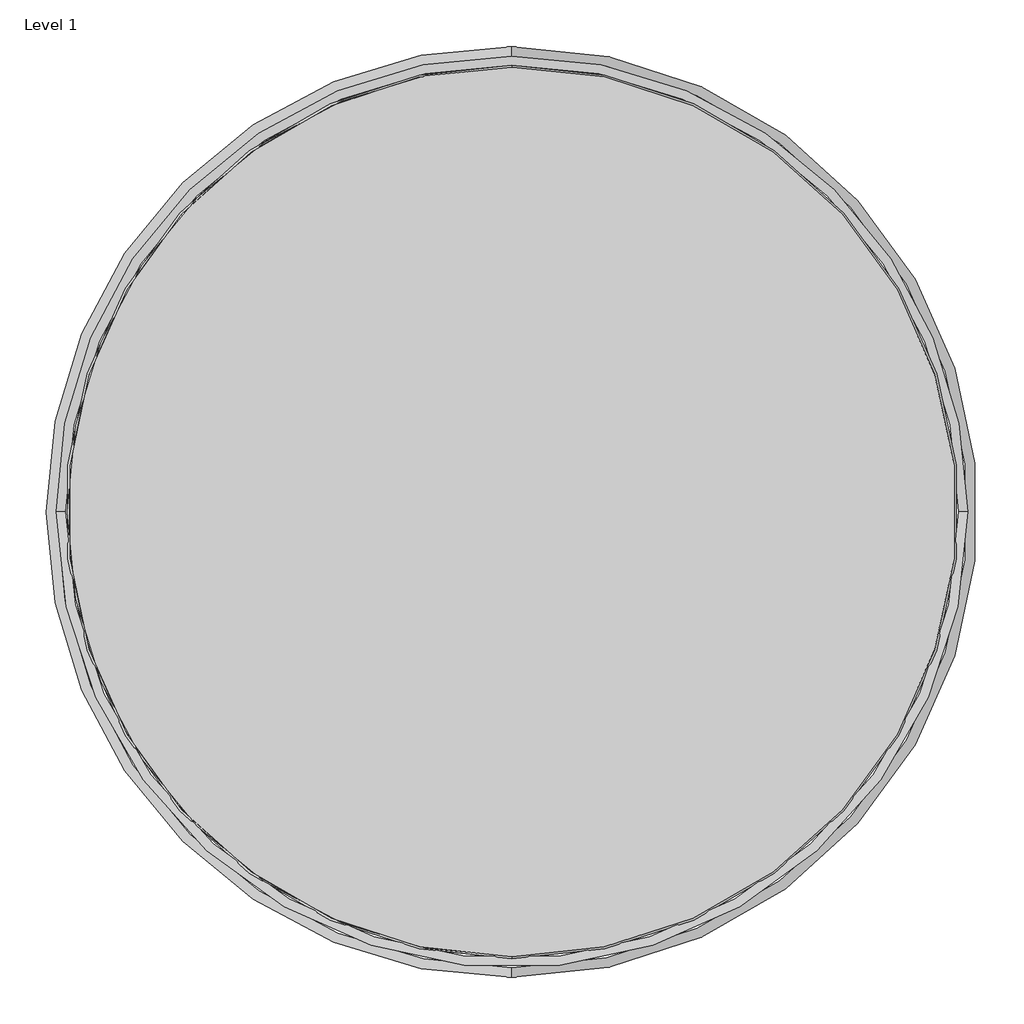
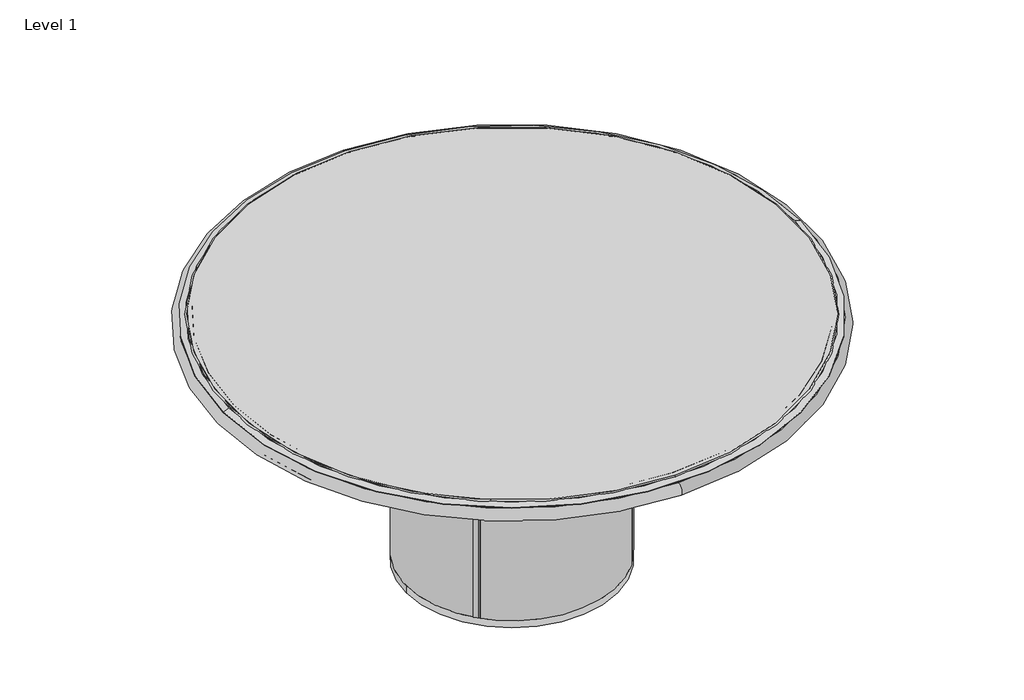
# One storey, incomplete: 10 proxies.
"""IFC4 building model written with IfcOpenShell, lengths in millimetres."""

import ifcopenshell
import ifcopenshell.guid

model = None  # the IFC model being written
_history = None  # IfcOwnerHistory: only IFC2X3 demands one
_inside = {}  # id of a spatial element -> (the spatial element, [elements in it])
_under = {}  # id of a project, library or spatial element -> (it, [spatial elements below it])
_declared = {}  # id of a project -> (the project, [libraries it declares])
_typed = {}  # id of a type object -> (the type object, [elements of that type])
_made_of = {}  # id of a material, layer set ... -> (it, [elements and type objects made of it])


def new_model(schema):
    """Start an empty IFC model of exactly this schema.

    Asked for "IFC4X3", IfcOpenShell would pick the latest addendum, in which some entities
    have other attributes; the version numbers below select the first issue.
    IFC2X3 requires an IfcOwnerHistory on every rooted entity: one is made here for all.
    """
    global model, _history
    if schema == "IFC4X3":
        model = ifcopenshell.file(schema_version=(4, 3, 0, 0))
    else:
        model = ifcopenshell.file(schema=schema)
    _inside.clear()
    _under.clear()
    _declared.clear()
    _typed.clear()
    _made_of.clear()
    _history = None
    if model.schema == "IFC2X3":
        org = make("IfcOrganization", Name="unknown")
        user = make(
            "IfcPersonAndOrganization",
            ThePerson=make("IfcPerson", FamilyName="unknown"),
            TheOrganization=org,
        )
        app = make(
            "IfcApplication",
            ApplicationDeveloper=org,
            Version="unknown",
            ApplicationFullName="unknown",
            ApplicationIdentifier="unknown",
        )
        _history = make(
            "IfcOwnerHistory",
            OwningUser=user,
            OwningApplication=app,
            ChangeAction="ADDED",
            CreationDate=0,
        )
    return model


def make(cls, **values):
    """One entity of the class cls with the attributes given. An attribute that is None is left unset."""
    return model.create_entity(
        cls, **{name: value for name, value in values.items() if value is not None}
    )


def rooted(cls, **values):
    """An entity with a GlobalId (a new one), such as an element, a storey or a relation."""
    return make(cls, GlobalId=ifcopenshell.guid.new(), OwnerHistory=_history, **values)


def si_unit(unit_type, name, prefix=None):
    """IfcSIUnit, for example si_unit("LENGTHUNIT", "METRE", prefix="MILLI")."""
    return make("IfcSIUnit", UnitType=unit_type, Prefix=prefix, Name=name)


def assignment(units):
    """IfcUnitAssignment: the units of a project."""
    return None if units is None else make("IfcUnitAssignment", Units=units)


def point(xyz):
    """IfcCartesianPoint."""
    return None if xyz is None else make("IfcCartesianPoint", Coordinates=xyz)


def direction(xyz):
    """IfcDirection."""
    return None if xyz is None else make("IfcDirection", DirectionRatios=xyz)


def frame(location, z_axis=None, x_axis=None):
    """IfcAxis2Placement3D, a coordinate frame: its origin and axes. An axis left out is left unset."""
    return make(
        "IfcAxis2Placement3D",
        Location=point(location),
        Axis=direction(z_axis),
        RefDirection=direction(x_axis),
    )


def frame_2d(location, x_axis=None):
    """IfcAxis2Placement2D, a coordinate frame in the plane: its origin and x axis."""
    return make(
        "IfcAxis2Placement2D", Location=point(location), RefDirection=direction(x_axis)
    )


def origin():
    """The frame at (0, 0, 0) with its axes left unset."""
    return frame((0.0, 0.0, 0.0))


def origin_2d():
    """The frame at (0, 0) in the plane with its x axis left unset."""
    return frame_2d((0.0, 0.0))


def place(relative_to, where):
    """IfcLocalPlacement: puts the frame where relative to a parent placement (None: the world)."""
    return make(
        "IfcLocalPlacement", PlacementRelTo=relative_to, RelativePlacement=where
    )


def context(
    kind, dimensions, precision=None, world=None, true_north=None, identifier=None
):
    """IfcGeometricRepresentationContext, for example the 3D "Model" context."""
    return make(
        "IfcGeometricRepresentationContext",
        ContextIdentifier=identifier,
        ContextType=kind,
        CoordinateSpaceDimension=dimensions,
        Precision=precision,
        WorldCoordinateSystem=world,
        TrueNorth=true_north,
    )


def project(units=None, contexts=None):
    """IfcProject with its units and contexts."""
    return rooted(
        "IfcProject",
        Name="project",
        RepresentationContexts=contexts,
        UnitsInContext=assignment(units),
    )


def spatial(cls, under=None, at=None, **own):
    """A site, building, storey or space (cls), placed at a placement, below another one or the project."""
    s = rooted(cls, ObjectPlacement=at, **own)
    if under is not None:
        _under.setdefault(under.id(), (under, []))[1].append(s)
    return s


def polyline(points):
    """IfcPolyline through the points."""
    return make("IfcPolyline", Points=[point(p) for p in points])


def circle_curve(where, radius):
    """IfcCircle in the frame where."""
    return make("IfcCircle", Position=where, Radius=radius)


def ellipse_curve(where, semi_axis1, semi_axis2):
    """IfcEllipse in the frame where."""
    return make(
        "IfcEllipse", Position=where, SemiAxis1=semi_axis1, SemiAxis2=semi_axis2
    )


def trimmed(basis, trim1, trim2, sense, master):
    """IfcTrimmedCurve: the piece of a basis curve between two trims."""
    return make(
        "IfcTrimmedCurve",
        BasisCurve=basis,
        Trim1=trim1,
        Trim2=trim2,
        SenseAgreement=sense,
        MasterRepresentation=master,
    )


def segment(curve, same_sense, transition):
    """IfcCompositeCurveSegment."""
    return make(
        "IfcCompositeCurveSegment",
        Transition=transition,
        SameSense=same_sense,
        ParentCurve=curve,
    )


def composite_curve(segments, self_intersect=None):
    """IfcCompositeCurve: segments joined end to end."""
    return make("IfcCompositeCurve", Segments=segments, SelfIntersect=self_intersect)


def outline(outer, holes=None, kind="AREA"):
    """IfcArbitraryClosedProfileDef: a profile drawn as a closed curve; with holes, ...WithVoids."""
    if holes is None:
        return make("IfcArbitraryClosedProfileDef", ProfileType=kind, OuterCurve=outer)
    return make(
        "IfcArbitraryProfileDefWithVoids",
        ProfileType=kind,
        OuterCurve=outer,
        InnerCurves=holes,
    )


def extrude(swept, where, along, depth):
    """IfcExtrudedAreaSolid: the profile swept, set in the frame where, extruded along a direction by depth."""
    return make(
        "IfcExtrudedAreaSolid",
        SweptArea=swept,
        Position=where,
        ExtrudedDirection=direction(along),
        Depth=depth,
    )


def shape(context_of_items, identifier, shape_type, items):
    """IfcShapeRepresentation: the items that make up one representation, for example the "Body"."""
    return make(
        "IfcShapeRepresentation",
        ContextOfItems=context_of_items,
        RepresentationIdentifier=identifier,
        RepresentationType=shape_type,
        Items=items,
    )


def source(mapping_origin, context_of_items, identifier, shape_type, items):
    """IfcRepresentationMap: a shape defined once, which mapped items show again and again."""
    return make(
        "IfcRepresentationMap",
        MappingOrigin=mapping_origin,
        MappedRepresentation=shape(context_of_items, identifier, shape_type, items),
    )


def transform(
    local_origin,
    x_axis=None,
    y_axis=None,
    z_axis=None,
    scale=None,
    scale2=None,
    scale3=None,
    uniform=True,
):
    """IfcCartesianTransformationOperator3D, or its non-uniform kind. x_axis, y_axis, z_axis: its Axis1, 2, 3."""
    if uniform:
        return make(
            "IfcCartesianTransformationOperator3D",
            Axis1=direction(x_axis),
            Axis2=direction(y_axis),
            LocalOrigin=point(local_origin),
            Scale=scale,
            Axis3=direction(z_axis),
        )
    return make(
        "IfcCartesianTransformationOperator3DnonUniform",
        Axis1=direction(x_axis),
        Axis2=direction(y_axis),
        LocalOrigin=point(local_origin),
        Scale=scale,
        Axis3=direction(z_axis),
        Scale2=scale2,
        Scale3=scale3,
    )


def mapped(mapping_source, mapping_target):
    """IfcMappedItem: shows the shape of a source again, moved by a transform."""
    return make(
        "IfcMappedItem", MappingSource=mapping_source, MappingTarget=mapping_target
    )


def made_of(thing, what):
    """Note that an element or type object is made of a material, layer set ...; save() writes the relation."""
    if what is not None:
        _made_of.setdefault(what.id(), (what, []))[1].append(thing)
    return thing


def element(
    cls,
    number,
    at=None,
    inside=None,
    cuts=None,
    type_object=None,
    material=None,
    context=None,
    identifier="Body",
    shape_type=None,
    held_by="IfcProductDefinitionShape",
    body=None,
    shapes=None,
    **own,
):
    """One element of the class cls, such as IfcWall. Its Tag is "e" and its number.

    at: its placement. inside: the storey or other place that contains it. cuts: it is an
    opening in that element (IfcRelVoidsElement). A single representation is given by context,
    identifier, shape_type and body (its items); several are given by shapes. held_by: the class
    of the entity that holds the representations. save() writes the other relations.
    """
    e = rooted(cls, Tag="e%d" % number, ObjectPlacement=at, **own)
    if body is not None:
        shapes = [shape(context, identifier, shape_type, body)]
    if shapes is not None:
        e.Representation = make(held_by, Representations=shapes)
    if inside is not None:
        _inside.setdefault(inside.id(), (inside, []))[1].append(e)
    if cuts is not None:
        rooted(
            "IfcRelVoidsElement", RelatingBuildingElement=cuts, RelatedOpeningElement=e
        )
    if type_object is not None:
        _typed.setdefault(type_object.id(), (type_object, []))[1].append(e)
    return made_of(e, material)


def aggregate(whole, parts):
    """IfcRelAggregates: a whole, such as a stair, and the parts it consists of."""
    return rooted("IfcRelAggregates", RelatingObject=whole, RelatedObjects=parts)


def save(model, path):
    """Write the relations noted so far, then the file.

    IfcRelAggregates (storeys below a building ...), IfcRelContainedInSpatialStructure (elements
    in a storey), IfcRelDefinesByType, IfcRelAssociatesMaterial and IfcRelDeclares: one each for
    every whole, place, type object, material and project.
    """
    for whole, parts in _under.values():
        aggregate(whole, parts)
    for where, things in _inside.values():
        rooted(
            "IfcRelContainedInSpatialStructure",
            RelatedElements=things,
            RelatingStructure=where,
        )
    for kind, things in _typed.values():
        rooted("IfcRelDefinesByType", RelatedObjects=things, RelatingType=kind)
    for what, things in _made_of.values():
        rooted("IfcRelAssociatesMaterial", RelatedObjects=things, RelatingMaterial=what)
    for by, libraries in _declared.values():
        rooted("IfcRelDeclares", RelatingContext=by, RelatedDefinitions=libraries)
    model.write(path)


def plane_surface(at):
    """IfcPlane: the flat surface through the origin of the frame at, square to its z axis."""
    return make("IfcPlane", Position=at)


def cylinder_surface(at, radius):
    """IfcCylindricalSurface: all points at the distance radius from the z axis of the frame at."""
    return make("IfcCylindricalSurface", Position=at, Radius=radius)


def revolved_surface(curve, axis_point, axis_direction):
    """IfcSurfaceOfRevolution: the curve turned about the line through axis_point along axis_direction."""
    return make(
        "IfcSurfaceOfRevolution",
        SweptCurve=make("IfcArbitraryOpenProfileDef", ProfileType="CURVE", Curve=curve),
        AxisPosition=make("IfcAxis1Placement", Location=point(axis_point), Axis=direction(axis_direction)),
    )


def advanced_brep(points, edges, surfaces, faces):
    """IfcAdvancedBrep: a solid bounded by faces that lie on surfaces and meet in shared edges.

    An edge is (start, end): straight between two places in points (the first is 0);
    or (start, end, curve); or (start, end, curve, False) where it runs against its curve.
    A face is (place in surfaces, loops), or (place, loops, False) where it looks against
    its surface's normal. A loop lists edges by number (the first is 1), with a minus sign
    where the edge is run from its end to its start. The first loop is the outer one.
    """
    corners = [point(p) for p in points]
    vertices = [make("IfcVertexPoint", VertexGeometry=c) for c in corners]
    made = []
    for start, end, *more in edges:
        made.append(
            make(
                "IfcEdgeCurve",
                EdgeStart=vertices[start],
                EdgeEnd=vertices[end],
                EdgeGeometry=more[0] if more else make("IfcPolyline", Points=[corners[start], corners[end]]),
                SameSense=more[1] if len(more) > 1 else True,
            )
        )
    hull = []
    for where, loops, *sense in faces:
        bounds = []
        for j, loop in enumerate(loops):
            ring = [make("IfcOrientedEdge", EdgeElement=made[abs(k) - 1], Orientation=k > 0) for k in loop]
            bounds.append(
                make(
                    "IfcFaceOuterBound" if j == 0 else "IfcFaceBound",
                    Bound=make("IfcEdgeLoop", EdgeList=ring),
                    Orientation=True,
                )
            )
        hull.append(make("IfcAdvancedFace", Bounds=bounds, FaceSurface=surfaces[where], SameSense=sense[0] if sense else True))
    return make("IfcAdvancedBrep", Outer=make("IfcClosedShell", CfsFaces=hull))


def generic_models_3dfdcb52(model_context):
    return source(origin(), model_context, "Body", "AdvancedBrep", [
        advanced_brep(
        [(265.1125, -615.95, 0.0), (265.1125, -596.9, 0.0), (-265.1125, -596.9, 0.0), (-265.1125, -615.95, 0.0), (208.5642819, -615.95, 163.6630013)],
        [
            (0, 1),
            (1, 2, circle_curve(frame((0.0, -596.9, 0.0), z_axis=(0.0, -1.0, 0.0), x_axis=(1.0, 0.0, 0.0)), 265.1125)),
            (2, 3),
            (3, 4, circle_curve(frame((0.0, -615.95, 0.0), z_axis=(0.0, 1.0, 0.0), x_axis=(1.0, 0.0, 0.0)), 265.1125)),
            (4, 0, circle_curve(frame((0.0, -615.95, 0.0), z_axis=(0.0, 1.0, 0.0), x_axis=(1.0, 0.0, 0.0)), 265.1125)),
            (0, 3, circle_curve(frame((0.0, -615.95, 0.0), z_axis=(0.0, 1.0, 0.0), x_axis=(1.0, 0.0, 0.0)), 265.1125)),
            (2, 1, circle_curve(frame((0.0, -596.9, 0.0), z_axis=(0.0, -1.0, 0.0), x_axis=(1.0, 0.0, 0.0)), 265.1125)),
        ],
        [
            cylinder_surface(frame((0.0, -615.95, 0.0), z_axis=(0.0, 1.0, 0.0), x_axis=(1.0, 0.0, 0.0)), 265.1125),
            plane_surface(frame((0.0, -615.95, 0.0), z_axis=(0.0, -1.0, 0.0), x_axis=(0.0, 0.0, -1.0))),
            plane_surface(frame((0.0, -596.9, 0.0), z_axis=(0.0, 1.0, 0.0), x_axis=(0.0, 0.0, -1.0))),
        ],
        [
            (0, [[1, 2, 3, 4, 5]]),
            (0, [[-1, 6, -3, 7]]),
            (1, [[-4, -6, -5]]),
            (2, [[-7, -2]]),
        ],
    ),
    ])


def generic_models_aae6d9b0(model_context):
    return source(origin(), model_context, "Body", "SweptSolid", [
        extrude(outline(composite_curve([segment(trimmed(circle_curve(origin_2d(), 349.25), [point((0.0, 349.25))], [point((0.0, -349.25))], False, "CARTESIAN"), True, "CONTINUOUS"), segment(trimmed(circle_curve(origin_2d(), 349.25), [point((0.0, -349.25))], [point((0.0, 349.25))], False, "CARTESIAN"), True, "CONTINUOUS")], self_intersect=False)), frame((0.0, -19.05, 0.0), z_axis=(0.0, 1.0, 0.0), x_axis=(0.0, 0.0, 1.0)), (0.0, 0.0, 1.0), 19.05),
    ])


def generic_models_4e563e0e(model_context):
    return source(origin(), model_context, "Body", "SweptSolid", [
        extrude(outline(composite_curve([segment(polyline([(-187.4628465, -187.4628465), (187.4628465, -187.4628465)]), True, "CONTINUOUS"), segment(trimmed(circle_curve(origin_2d(), 265.1125), [point((187.4628465, -187.4628465))], [point((166.2440431, -206.5128465))], False, "CARTESIAN"), True, "CONTINUOUS"), segment(polyline([(166.2440431, -206.5128465), (-166.2440431, -206.5128465)]), True, "CONTINUOUS"), segment(trimmed(circle_curve(origin_2d(), 265.1125), [point((-166.2440431, -206.5128465))], [point((-187.4628465, -187.4628465))], False, "CARTESIAN"), True, "CONTINUOUS")], self_intersect=False)), frame((0.0, -596.9, 0.0), z_axis=(0.0, 1.0, 0.0), x_axis=(0.0, 0.0, 1.0)), (0.0, 0.0, 1.0), 558.8),
    ])


def generic_models_b4677119(model_context):
    return source(origin(), model_context, "Body", "SweptSolid", [
        extrude(outline(composite_curve([segment(polyline([(-22.4506403, 22.4506403), (169.3151544, 214.216435)]), True, "CONTINUOUS"), segment(trimmed(circle_curve(origin_2d(), 273.05), [point((169.3151544, 214.216435))], [point((193.0755066, -193.0755066))], False, "CARTESIAN"), True, "CONTINUOUS"), segment(polyline([(193.0755066, -193.0755066), (-22.4506403, 22.4506403)]), True, "CONTINUOUS")], self_intersect=False)), frame((0.0, -615.95, 0.0), z_axis=(0.0, 1.0, 0.0), x_axis=(0.0, 0.0, 1.0)), (0.0, 0.0, 1.0), 577.85),
    ])


def generic_models_320544d4(model_context):
    return source(origin(), model_context, "Body", "AdvancedBrep", [
        advanced_brep(
        [(0.0, 22.1682311, 746.125), (0.0, -9.5412197, 744.9910714), (0.0, -9.5412197, -744.9910714), (0.0, 22.1682311, -746.125), (746.125, 22.1682311, 0.0), (0.0, -12.7, 739.0382387), (-744.9910714, -9.5412197, 0.0), (0.0, -12.7, -739.0382387), (-739.0382387, -12.7, 0.0), (-731.2531721, 29.1686338, 0.0), (-746.125, 23.7557311, 0.0), (746.125, 23.7557311, 0.0), (731.2531721, 29.1686338, 0.0), (0.0, 29.1686338, 731.2531721), (0.0, 31.75, 728.0528814), (-728.0528814, 31.75, 0.0), (0.0, 31.75, -728.0528814), (0.0, 29.1686338, -731.2531721), (-746.125, 22.1682311, 0.0)],
        [
            (0, 1, circle_curve(frame((0.0, 6.2932311, 746.125), z_axis=(1.0, 0.0, 0.0), x_axis=(0.0, 0.0, 1.0)), 15.875)),
            (1, 2, circle_curve(frame((0.0, -9.5412197, 0.0), z_axis=(0.0, 1.0, 0.0), x_axis=(0.0, 0.0, 1.0)), 744.9910714)),
            (2, 3, circle_curve(frame((0.0, 6.2932311, -746.125), z_axis=(1.0, 0.0, 0.0), x_axis=(0.0, 0.0, -1.0)), 15.875)),
            (3, 4, circle_curve(frame((0.0, 22.1682311, 0.0), z_axis=(0.0, -1.0, 0.0), x_axis=(0.0, 0.0, 1.0)), 746.125)),
            (4, 0, circle_curve(frame((0.0, 22.1682311, 0.0), z_axis=(0.0, -1.0, 0.0), x_axis=(0.0, 0.0, 1.0)), 746.125)),
            (5, 1, circle_curve(frame((0.0, -15.875, 744.5375), z_axis=(1.0, 0.0, 0.0), x_axis=(0.0, 0.0, 1.0)), 6.35)),
            (1, 6, circle_curve(frame((0.0, -9.5412197, 0.0), z_axis=(0.0, -1.0, 0.0), x_axis=(0.0, 0.0, -1.0)), 744.9910714)),
            (6, 2, circle_curve(frame((0.0, -9.5412197, 0.0), z_axis=(0.0, -1.0, 0.0), x_axis=(0.0, 0.0, -1.0)), 744.9910714)),
            (2, 7, circle_curve(frame((0.0, -15.875, -744.5375), z_axis=(1.0, 0.0, 0.0), x_axis=(0.0, 0.0, -1.0)), 6.35)),
            (7, 8, circle_curve(frame((0.0, -12.7, 0.0), z_axis=(0.0, 1.0, 0.0), x_axis=(0.0, 0.0, -1.0)), 739.0382387)),
            (8, 5, circle_curve(frame((0.0, -12.7, 0.0), z_axis=(0.0, 1.0, 0.0), x_axis=(0.0, 0.0, -1.0)), 739.0382387)),
            (9, 10),
            (10, 11, circle_curve(frame((0.0, 23.7557311, 0.0), z_axis=(0.0, 1.0, 0.0), x_axis=(-1.0, 0.0, 0.0)), 746.125)),
            (11, 12),
            (12, 13, circle_curve(frame((0.0, 29.1686338, 0.0), z_axis=(0.0, -1.0, 0.0), x_axis=(-1.0, 0.0, 0.0)), 731.2531721)),
            (13, 9, circle_curve(frame((0.0, 29.1686338, 0.0), z_axis=(0.0, -1.0, 0.0), x_axis=(-1.0, 0.0, 0.0)), 731.2531721)),
            (13, 14, circle_curve(frame((0.0, 35.1356819, 733.425), z_axis=(1.0, 0.0, 0.0), x_axis=(0.0, 0.0, 1.0)), 6.35)),
            (14, 15, circle_curve(frame((0.0, 31.75, 0.0), z_axis=(0.0, -1.0, 0.0), x_axis=(0.0, 0.0, -1.0)), 728.0528814)),
            (15, 16, circle_curve(frame((0.0, 31.75, 0.0), z_axis=(0.0, -1.0, 0.0), x_axis=(0.0, 0.0, -1.0)), 728.0528814)),
            (16, 17, circle_curve(frame((0.0, 35.1356819, -733.425), z_axis=(1.0, 0.0, 0.0), x_axis=(0.0, 0.0, -1.0)), 6.35)),
            (17, 9, circle_curve(frame((0.0, 29.1686338, 0.0), z_axis=(0.0, 1.0, 0.0), x_axis=(0.0, 0.0, -1.0)), 731.2531721)),
            (10, 18),
            (18, 0, circle_curve(frame((0.0, 22.1682311, 0.0), z_axis=(0.0, 1.0, 0.0), x_axis=(-1.0, 0.0, 0.0)), 746.125)),
            (4, 11),
            (14, 16, circle_curve(frame((0.0, 31.75, 0.0), z_axis=(0.0, 1.0, 0.0), x_axis=(0.0, 0.0, 1.0)), 728.0528814)),
            (7, 5, circle_curve(frame((0.0, -12.7, 0.0), z_axis=(0.0, -1.0, 0.0), x_axis=(0.0, 0.0, 1.0)), 739.0382387)),
            (10, 11, circle_curve(frame((0.0, 23.7557311, 0.0), z_axis=(0.0, -1.0, 0.0), x_axis=(-1.0, 0.0, 0.0)), 746.125)),
            (3, 18, circle_curve(frame((0.0, 22.1682311, 0.0), z_axis=(0.0, 1.0, 0.0), x_axis=(-1.0, 0.0, 0.0)), 746.125)),
            (12, 17, circle_curve(frame((0.0, 29.1686338, 0.0), z_axis=(0.0, 1.0, 0.0), x_axis=(0.0, 0.0, 1.0)), 731.2531721)),
        ],
        [
            revolved_surface(trimmed(ellipse_curve(frame((0.0, 6.2932311, 746.125), z_axis=(-1.0, 0.0, 0.0), x_axis=(0.0, 0.0, 1.0)), 15.875, 15.875), [point((0.0, -9.5412197, 744.9910714))], [point((0.0, 22.1682311, 746.125))], True, "CARTESIAN"), (0.0, 6.2932311, 0.0), (0.0, 1.0, 0.0)),
            revolved_surface(trimmed(ellipse_curve(frame((0.0, -15.875, -744.5375), z_axis=(-1.0, 0.0, 0.0), x_axis=(0.0, 0.0, -1.0)), 6.35, 6.35), [point((0.0, -12.7, -739.0382387))], [point((0.0, -9.5412197, -744.9910714))], True, "CARTESIAN"), (0.0, -15.875, 0.0), (0.0, 1.0, 0.0)),
            revolved_surface(polyline([(-731.2531720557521, 29.16863380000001, 0.0), (-746.125, 23.75573109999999, 0.0)]), (0.0, 295.3230221, 0.0), (0.0, -1.0, 0.0)),
            revolved_surface(trimmed(ellipse_curve(frame((0.0, 35.1356819, -733.425), z_axis=(-1.0, 0.0, 0.0), x_axis=(0.0, 0.0, -1.0)), 6.35, 6.35), [point((0.0, 29.1686338, -731.2531721))], [point((0.0, 31.75, -728.0528814))], True, "CARTESIAN"), (0.0, 35.1356819, 0.0), (0.0, 1.0, 0.0)),
            cylinder_surface(frame((0.0, 22.9619811, 0.0), z_axis=(0.0, 1.0, 0.0), x_axis=(-1.0, 0.0, 0.0)), 746.125),
            plane_surface(frame((0.0, 31.75, 0.0), z_axis=(0.0, 1.0, 0.0), x_axis=(0.0, 0.0, 1.0))),
            plane_surface(frame((0.0, -12.7, 0.0), z_axis=(0.0, -1.0, 0.0), x_axis=(0.0, 0.0, 1.0))),
            revolved_surface(trimmed(ellipse_curve(frame((0.0, 35.1356819, 733.425), z_axis=(1.0, 0.0, 0.0), x_axis=(0.0, 0.0, 1.0)), 6.35, 6.35), [point((0.0, 29.1686338, 731.2531721))], [point((0.0, 31.75, 728.0528814))], True, "CARTESIAN"), (0.0, 35.1356819, 0.0), (0.0, 1.0, 0.0)),
            revolved_surface(trimmed(ellipse_curve(frame((0.0, -15.875, 744.5375), z_axis=(1.0, 0.0, 0.0), x_axis=(0.0, 0.0, 1.0)), 6.35, 6.35), [point((0.0, -12.7, 739.0382387))], [point((0.0, -9.5412197, 744.9910714))], True, "CARTESIAN"), (0.0, -15.875, 0.0), (0.0, 1.0, 0.0)),
            revolved_surface(trimmed(ellipse_curve(frame((0.0, 6.2932311, -746.125), z_axis=(1.0, 0.0, 0.0), x_axis=(0.0, 0.0, -1.0)), 15.875, 15.875), [point((0.0, -9.5412197, -744.9910714))], [point((0.0, 22.1682311, -746.125))], True, "CARTESIAN"), (0.0, 6.2932311, 0.0), (0.0, 1.0, 0.0)),
        ],
        [
            (0, [[1, 2, 3, 4, 5]]),
            (1, [[6, 7, 8, 9, 10, 11]]),
            (2, [[12, 13, 14, 15, 16]]),
            (3, [[17, 18, 19, 20, 21, -16]]),
            (4, [[22, 23, -5, 24, -13]]),
            (5, [[-18, 25, -19]]),
            (6, [[-10, 26, -11]]),
            (4, [[-22, 27, -24, -4, 28]]),
            (7, [[-17, -15, 29, -20, -25]]),
            (2, [[-12, -21, -29, -14, -27]]),
            (8, [[-6, -26, -9, -2]]),
            (9, [[-1, -23, -28, -3, -8, -7]]),
        ],
    ),
    ])


def generic_models_939ff904(model_context):
    return source(origin(), model_context, "Body", "SweptSolid", [
        extrude(outline(composite_curve([segment(trimmed(circle_curve(origin_2d(), 273.05), [point((0.0, 273.05))], [point((0.0, -273.05))], False, "CARTESIAN"), True, "CONTINUOUS"), segment(trimmed(circle_curve(origin_2d(), 273.05), [point((0.0, -273.05))], [point((0.0, 273.05))], False, "CARTESIAN"), True, "CONTINUOUS")], self_intersect=False)), frame((0.0, -635.0, 0.0), z_axis=(0.0, 1.0, 0.0), x_axis=(0.0, 0.0, 1.0)), (0.0, 0.0, 1.0), 19.05),
    ])


def generic_models_e8c6ea60(model_context):
    return source(origin(), model_context, "Body", "SweptSolid", [
        extrude(outline(composite_curve([segment(trimmed(circle_curve(origin_2d(), 265.1125), [point((0.0, 265.1125))], [point((0.0, -265.1125))], False, "CARTESIAN"), True, "CONTINUOUS"), segment(trimmed(circle_curve(origin_2d(), 265.1125), [point((0.0, -265.1125))], [point((0.0, 265.1125))], False, "CARTESIAN"), True, "CONTINUOUS")], self_intersect=False)), frame((0.0, -38.1, 0.0), z_axis=(0.0, 1.0, 0.0), x_axis=(0.0, 0.0, 1.0)), (0.0, 0.0, 1.0), 19.05),
    ])


def generic_models_51752abd(model_context):
    return source(origin(), model_context, "Body", "SweptSolid", [
        extrude(outline(composite_curve([segment(polyline([(169.3151544, 214.216435), (-22.4506403, 22.4506403), (193.0755066, -193.0755066)]), True, "CONTINUOUS"), segment(trimmed(circle_curve(origin_2d(), 273.05), [point((193.0755066, -193.0755066))], [point((169.3151544, 214.216435))], False, "CARTESIAN"), True, "CONTINUOUS")], self_intersect=False)), frame((0.0, -615.95, 0.0), z_axis=(0.0, 1.0, 0.0), x_axis=(0.0, 0.0, 1.0)), (0.0, 0.0, 1.0), 596.9),
    ])


def generic_models_453faee4(model_context):
    return source(origin(), model_context, "Body", "SweptSolid", [
        extrude(outline(composite_curve([segment(trimmed(circle_curve(origin_2d(), 717.55), [point((0.0, 717.55))], [point((0.0, -717.55))], False, "CARTESIAN"), True, "CONTINUOUS"), segment(trimmed(circle_curve(origin_2d(), 717.55), [point((0.0, -717.55))], [point((0.0, 717.55))], False, "CARTESIAN"), True, "CONTINUOUS")], self_intersect=False)), frame((0.0, 0.0, 0.0), z_axis=(0.0, 1.0, 0.0), x_axis=(0.0, 0.0, 1.0)), (0.0, 0.0, 1.0), 31.75),
    ])


def generic_models_85b807a3(model_context):
    return source(origin(), model_context, "Body", "SweptSolid", [
        extrude(outline(composite_curve([segment(trimmed(circle_curve(origin_2d(), 717.55), [point((0.0, 717.55))], [point((0.0, -717.55))], False, "CARTESIAN"), True, "CONTINUOUS"), segment(trimmed(circle_curve(origin_2d(), 717.55), [point((0.0, -717.55))], [point((0.0, 717.55))], False, "CARTESIAN"), True, "CONTINUOUS")], self_intersect=False)), frame((0.0, -12.7, 0.0), z_axis=(0.0, 1.0, 0.0), x_axis=(0.0, 0.0, 1.0)), (0.0, 0.0, 1.0), 12.7),
    ])


model = new_model("IFC4")

# Units and contexts
model_context = context("Model", 3, world=origin())
ifc_project = project(units=[si_unit("LENGTHUNIT", "METRE", prefix="MILLI")], contexts=[model_context])

# Site, building, storey
site = spatial("IfcSite", under=ifc_project)
building = spatial("IfcBuilding", under=site)
storey = spatial("IfcBuildingStorey", under=building, Name="Level 1", Elevation=0.0)

# Proxies
placement = place(None, origin())
generic_models_shape = generic_models_3dfdcb52(model_context)
element("IfcBuildingElementProxy", 1, Name="CAMBRIDGE^TABLE 1_60 ROUND-BASE BOTTOM", ObjectType="CAMBRIDGE^TABLE 1_60 ROUND-BASE BOTTOM", at=placement, inside=storey, context=model_context, shape_type="MappedRepresentation", body=[
    mapped(generic_models_shape, transform((0.0, 0.0, 0.0), x_axis=(1.0, 0.0, 0.0), y_axis=(0.0, 0.0, 1.0), z_axis=(0.0, -1.0, 0.0))),
])
generic_models_2_shape = generic_models_aae6d9b0(model_context)
element("IfcBuildingElementProxy", 2, Name="CAMBRIDGE^TABLE 1_60 ROUND-SUB TOP", ObjectType="CAMBRIDGE^TABLE 1_60 ROUND-SUB TOP", at=placement, inside=storey, context=model_context, shape_type="MappedRepresentation", body=[
    mapped(generic_models_2_shape, transform((0.0, 0.0, 0.0), x_axis=(1.0, 0.0, 0.0), y_axis=(0.0, 0.0, 1.0), z_axis=(0.0, -1.0, 0.0))),
])
generic_models_3_shape = generic_models_4e563e0e(model_context)
element("IfcBuildingElementProxy", 3, Name="CAMBRIDGE^TABLE 1_60 ROUND-SIDE PARTITION", ObjectType="CAMBRIDGE^TABLE 1_60 ROUND-SIDE PARTITION", at=placement, inside=storey, context=model_context, shape_type="MappedRepresentation", body=[
    mapped(generic_models_3_shape, transform((0.0, 0.0, 0.0), x_axis=(-1.0, 0.0, 0.0), y_axis=(0.0, 0.0, 1.0), z_axis=(0.0, 1.0, 0.0))),
])
generic_models_4_shape = generic_models_b4677119(model_context)
element("IfcBuildingElementProxy", 4, Name="CAMBRIDGE^TABLE 1_60 ROUND-BASE DOOR", ObjectType="CAMBRIDGE^TABLE 1_60 ROUND-BASE DOOR", at=placement, inside=storey, context=model_context, shape_type="MappedRepresentation", body=[
    mapped(generic_models_4_shape, transform((0.0, 0.0, 0.0), x_axis=(0.9981990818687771, -0.059988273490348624, 0.0), y_axis=(0.0, 0.0, 0.9999999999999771), z_axis=(-0.059988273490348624, -0.9981990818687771, 0.0))),
])
generic_models_5_shape = generic_models_320544d4(model_context)
element("IfcBuildingElementProxy", 5, Name="CAMBRIDGE^TABLE 1_60 ROUND-TOP SOLID", ObjectType="CAMBRIDGE^TABLE 1_60 ROUND-TOP SOLID", at=placement, inside=storey, context=model_context, shape_type="MappedRepresentation", body=[
    mapped(generic_models_5_shape, transform((0.0, 0.0, 0.0), x_axis=(1.0, 0.0, 0.0), y_axis=(0.0, 0.0, 1.0), z_axis=(0.0, -1.0, 0.0))),
])
generic_models_6_shape = generic_models_939ff904(model_context)
element("IfcBuildingElementProxy", 6, Name="CAMBRIDGE^TABLE 1_60 ROUND-PLINTH TOP", ObjectType="CAMBRIDGE^TABLE 1_60 ROUND-PLINTH TOP", at=placement, inside=storey, context=model_context, shape_type="MappedRepresentation", body=[
    mapped(generic_models_6_shape, transform((0.0, 0.0, 0.0), x_axis=(1.0, 0.0, 0.0), y_axis=(0.0, 0.0, 1.0), z_axis=(0.0, -1.0, 0.0))),
])
generic_models_7_shape = generic_models_e8c6ea60(model_context)
element("IfcBuildingElementProxy", 7, Name="CAMBRIDGE^TABLE 1_60 ROUND-BASE TOP", ObjectType="CAMBRIDGE^TABLE 1_60 ROUND-BASE TOP", at=placement, inside=storey, context=model_context, shape_type="MappedRepresentation", body=[
    mapped(generic_models_7_shape, transform((0.0, 0.0, 0.0), x_axis=(1.0, 0.0, 0.0), y_axis=(0.0, 0.0, 1.0), z_axis=(0.0, -1.0, 0.0))),
])
generic_models_8_shape = generic_models_51752abd(model_context)
element("IfcBuildingElementProxy", 8, Name="CAMBRIDGE^TABLE 1_60 ROUND-BASE SHELL", ObjectType="CAMBRIDGE^TABLE 1_60 ROUND-BASE SHELL", at=placement, inside=storey, context=model_context, shape_type="MappedRepresentation", body=[
    mapped(generic_models_8_shape, transform((0.0, 0.0, 0.0), x_axis=(1.0, 0.0, 0.0), y_axis=(0.0, 0.0, 1.0), z_axis=(0.0, -1.0, 0.0))),
])
generic_models_9_shape = generic_models_453faee4(model_context)
element("IfcBuildingElementProxy", 9, Name="CAMBRIDGE^TABLE 1_60 ROUND-TOP", ObjectType="CAMBRIDGE^TABLE 1_60 ROUND-TOP", at=placement, inside=storey, context=model_context, shape_type="MappedRepresentation", body=[
    mapped(generic_models_9_shape, transform((0.0, 0.0, 0.0), x_axis=(1.0, 0.0, 0.0), y_axis=(0.0, 0.0, 1.0), z_axis=(0.0, -1.0, 0.0))),
])
generic_models_10_shape = generic_models_85b807a3(model_context)
element("IfcBuildingElementProxy", 10, Name="CAMBRIDGE^TABLE 1_60 ROUND-TOP BLOCKING", ObjectType="CAMBRIDGE^TABLE 1_60 ROUND-TOP BLOCKING", at=placement, inside=storey, context=model_context, shape_type="MappedRepresentation", body=[
    mapped(generic_models_10_shape, transform((0.0, 0.0, 0.0), x_axis=(1.0, 0.0, 0.0), y_axis=(0.0, 0.0, 1.0), z_axis=(0.0, -1.0, 0.0))),
])

save(model, "model.ifc")
